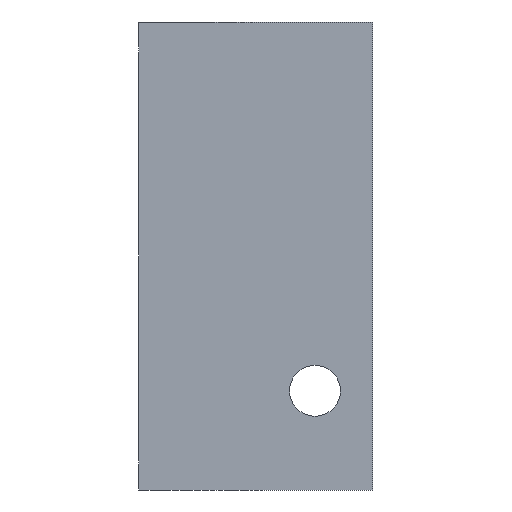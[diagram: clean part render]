
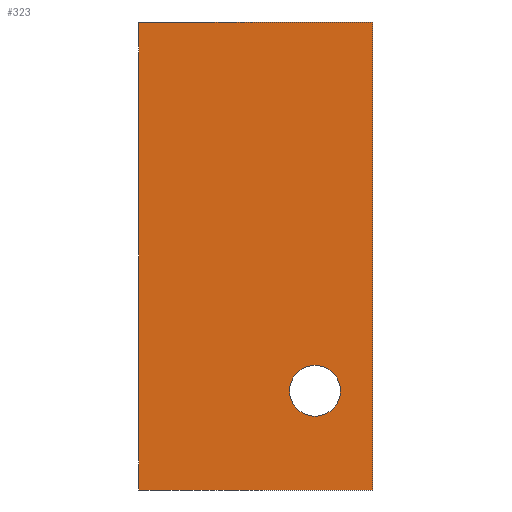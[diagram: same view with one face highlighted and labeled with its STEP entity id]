
A CAD part, left-side view. The second image highlights one B-rep face of the part: STEP entity #323.
In plain terms, the highlighted planar face has unit normal (-1, 0, 0).
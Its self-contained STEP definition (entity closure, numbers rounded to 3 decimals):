
#19 = AXIS2_PLACEMENT_3D ( 'NONE', #1071, #263, #1893 ) ;
#63 = VERTEX_POINT ( 'NONE', #777 ) ;
#79 = ORIENTED_EDGE ( 'NONE', *, *, #1777, .T. ) ;
#99 = CARTESIAN_POINT ( 'NONE',  ( -125.66, 23., 40.88 ) ) ;
#128 = CARTESIAN_POINT ( 'NONE',  ( -125.66, 23., 86.88 ) ) ;
#154 = EDGE_CURVE ( 'NONE', #698, #1718, #364, .T. ) ;
#180 = CARTESIAN_POINT ( 'NONE',  ( -125.66, 0., 86.88 ) ) ;
#222 = EDGE_LOOP ( 'NONE', ( #457, #1106 ) ) ;
#247 = CARTESIAN_POINT ( 'NONE',  ( -125.66, 5.7, 50.63 ) ) ;
#263 = DIRECTION ( 'NONE',  ( -1., 0., 0. ) ) ;
#323 = ADVANCED_FACE ( 'NONE', ( #1588, #731 ), #1897, .F. ) ;
#364 = LINE ( 'NONE', #1031, #1065 ) ;
#375 = VECTOR ( 'NONE', #530, 1000. ) ;
#391 = DIRECTION ( 'NONE',  ( -1., 0., 0. ) ) ;
#409 = DIRECTION ( 'NONE',  ( 0., 0., -1. ) ) ;
#410 = CIRCLE ( 'NONE', #1436, 2.5 ) ;
#440 = EDGE_CURVE ( 'NONE', #63, #1520, #1843, .T. ) ;
#457 = ORIENTED_EDGE ( 'NONE', *, *, #440, .F. ) ;
#530 = DIRECTION ( 'NONE',  ( 0., 0., 1. ) ) ;
#557 = DIRECTION ( 'NONE',  ( 0., 0., 1. ) ) ;
#698 = VERTEX_POINT ( 'NONE', #1137 ) ;
#731 = FACE_OUTER_BOUND ( 'NONE', #879, .T. ) ;
#758 = EDGE_CURVE ( 'NONE', #1606, #1718, #1514, .T. ) ;
#777 = CARTESIAN_POINT ( 'NONE',  ( -125.66, 5.7, 53.13 ) ) ;
#782 = VECTOR ( 'NONE', #1685, 1000. ) ;
#879 = EDGE_LOOP ( 'NONE', ( #1266, #1019, #1211, #79 ) ) ;
#927 = VECTOR ( 'NONE', #1299, 1000. ) ;
#995 = CARTESIAN_POINT ( 'NONE',  ( -125.66, 23., 40.88 ) ) ;
#1008 = CARTESIAN_POINT ( 'NONE',  ( -125.66, 23., 86.88 ) ) ;
#1019 = ORIENTED_EDGE ( 'NONE', *, *, #758, .F. ) ;
#1031 = CARTESIAN_POINT ( 'NONE',  ( -125.66, 0., 40.88 ) ) ;
#1065 = VECTOR ( 'NONE', #1497, 1000. ) ;
#1071 = CARTESIAN_POINT ( 'NONE',  ( -125.66, 5.7, 50.63 ) ) ;
#1106 = ORIENTED_EDGE ( 'NONE', *, *, #1951, .F. ) ;
#1137 = CARTESIAN_POINT ( 'NONE',  ( -125.66, 0., 40.88 ) ) ;
#1211 = ORIENTED_EDGE ( 'NONE', *, *, #1981, .F. ) ;
#1266 = ORIENTED_EDGE ( 'NONE', *, *, #154, .T. ) ;
#1299 = DIRECTION ( 'NONE',  ( 0., -1., 0. ) ) ;
#1311 = LINE ( 'NONE', #995, #927 ) ;
#1429 = CARTESIAN_POINT ( 'NONE',  ( -125.66, 23., 40.88 ) ) ;
#1436 = AXIS2_PLACEMENT_3D ( 'NONE', #247, #391, #557 ) ;
#1497 = DIRECTION ( 'NONE',  ( 0., 0., 1. ) ) ;
#1514 = LINE ( 'NONE', #1008, #782 ) ;
#1520 = VERTEX_POINT ( 'NONE', #1527 ) ;
#1527 = CARTESIAN_POINT ( 'NONE',  ( -125.66, 5.7, 48.13 ) ) ;
#1565 = VERTEX_POINT ( 'NONE', #1429 ) ;
#1588 = FACE_BOUND ( 'NONE', #222, .T. ) ;
#1606 = VERTEX_POINT ( 'NONE', #128 ) ;
#1685 = DIRECTION ( 'NONE',  ( 0., -1., 0. ) ) ;
#1713 = DIRECTION ( 'NONE',  ( 1., 0., 0. ) ) ;
#1718 = VERTEX_POINT ( 'NONE', #180 ) ;
#1777 = EDGE_CURVE ( 'NONE', #1565, #698, #1311, .T. ) ;
#1779 = AXIS2_PLACEMENT_3D ( 'NONE', #99, #1713, #409 ) ;
#1834 = LINE ( 'NONE', #1855, #375 ) ;
#1843 = CIRCLE ( 'NONE', #19, 2.5 ) ;
#1855 = CARTESIAN_POINT ( 'NONE',  ( -125.66, 23., 40.88 ) ) ;
#1893 = DIRECTION ( 'NONE',  ( 0., 0., 1. ) ) ;
#1897 = PLANE ( 'NONE',  #1779 ) ;
#1951 = EDGE_CURVE ( 'NONE', #1520, #63, #410, .T. ) ;
#1981 = EDGE_CURVE ( 'NONE', #1565, #1606, #1834, .T. ) ;
